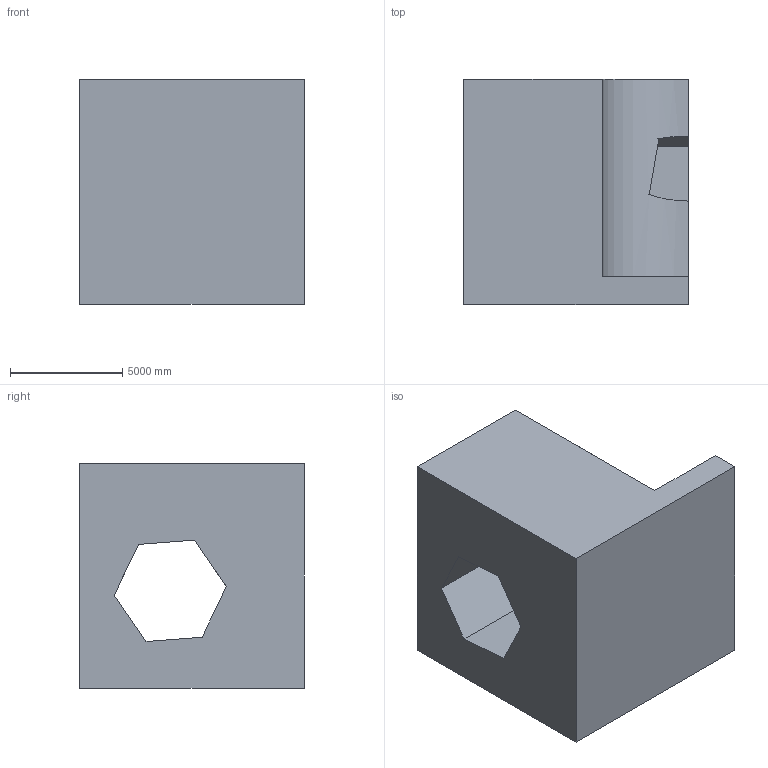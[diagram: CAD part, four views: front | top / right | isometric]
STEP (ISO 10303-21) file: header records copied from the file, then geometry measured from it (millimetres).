
FILE_DESCRIPTION (( 'STEP AP203' ), '1' );
FILE_NAME ('1040.STEP', '2022-08-18T12:31:31', ( 'user' ), ( '' ), 'SwSTEP 2.0', 'SolidWorks 2021', '' );
FILE_SCHEMA (( 'CONFIG_CONTROL_DESIGN' ));
Length unit declared in the file: centimetre
Products named in the file (1): 1040
Bounding box: 10000 x 10000 x 10000 mm (x, y, z)
Volume: 737462300947.9 mm3; surface area: 694976431 mm2
Topology: 1 solids, 1 shells, 14 faces, 39 edges, 26 vertices
Faces by surface type: plane 13, cylinder 1
Entity records: 526 total; most frequent: CARTESIAN_POINT 89, ORIENTED_EDGE 78, DIRECTION 68, EDGE_CURVE 39, VECTOR 34, LINE 34, VERTEX_POINT 26, AXIS2_PLACEMENT_3D 17
